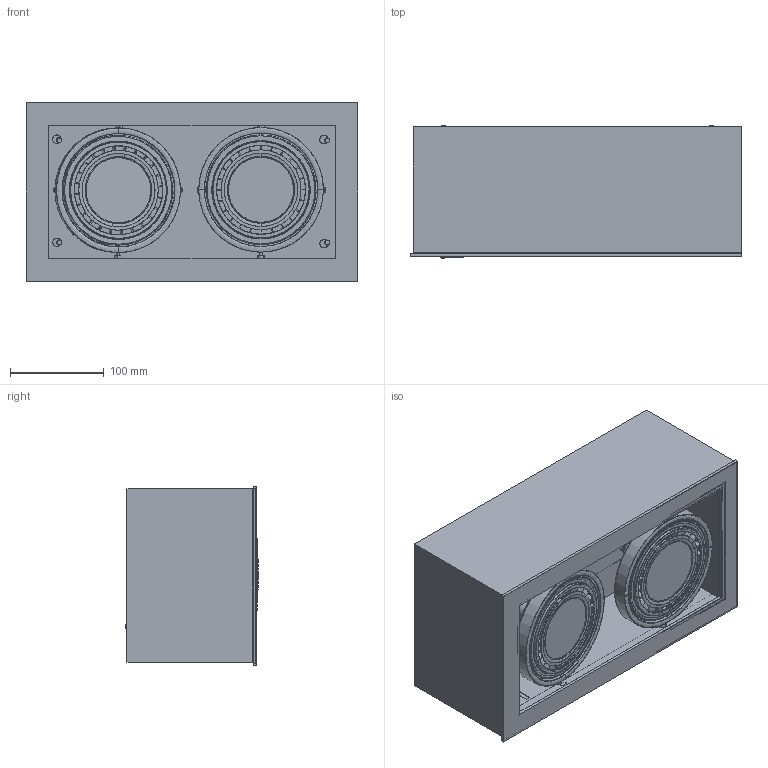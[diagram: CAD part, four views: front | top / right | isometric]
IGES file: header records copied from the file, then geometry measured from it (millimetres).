
Start section: SolidWorks IGES file using analytic representation for surfaces
Global section: file name: E:\3D lampy\Box\BOX BLACK ES111\Box ES111_9470,9471,9472.IGS; native system: SolidWorks 2017; preprocessor: SolidWorks 2017; author: joanna.pastusinska; date: 180629.112439; units: millimetre
Bounding box: 354 x 141.42 x 190 mm (x, y, z)
Surface area: 1000911.1 mm2 (no closed solid volume)
Topology: 0 solids, 0 shells, 1995 faces, 21526 edges, 21486 vertices
Faces by surface type: bspline 1169, revolution 826
